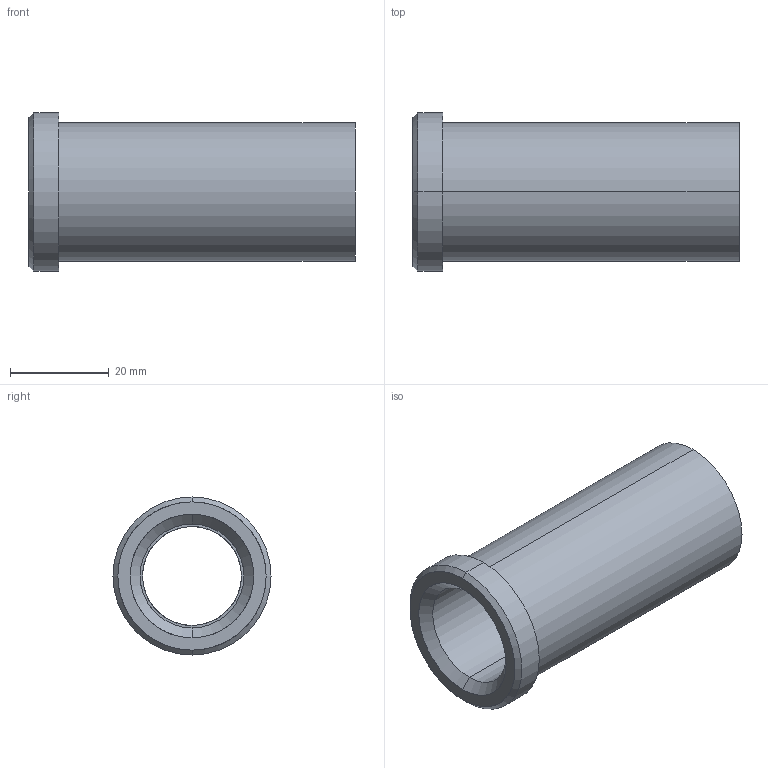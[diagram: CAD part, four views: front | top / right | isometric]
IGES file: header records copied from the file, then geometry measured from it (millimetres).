
Start section: START RECORD GO HERE.
Global section: file name: 353-20X66.igs; native system: DASSAULT SYSTEMES CATIA V5 R20 - www.3ds.com; preprocessor: CATIA Version 5 Release 20 ; author: Utente; organization: NB04-ASUS; date: 20210508.105550; units: millimetre
Bounding box: 66 x 32 x 32 mm (x, y, z)
Surface area: 10918.1 mm2 (no closed solid volume)
Topology: 0 solids, 0 shells, 18 faces, 116 edges, 116 vertices
Faces by surface type: revolution 14, plane 4
